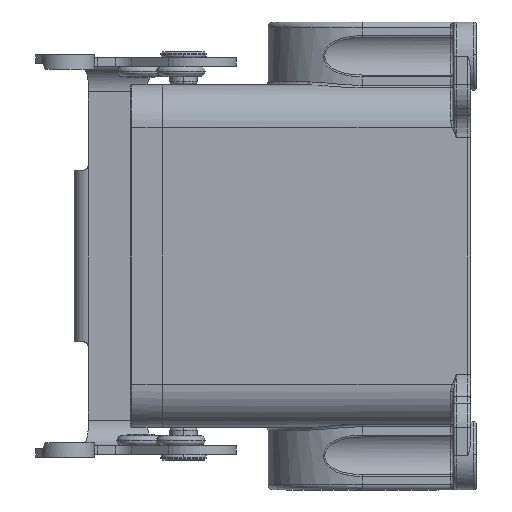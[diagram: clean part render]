
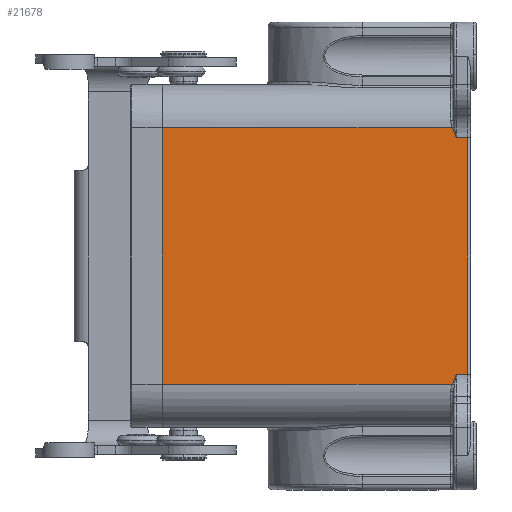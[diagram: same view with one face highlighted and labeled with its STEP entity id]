
A CAD part, left-side view. The second image highlights one B-rep face of the part: STEP entity #21678.
In plain terms, the highlighted planar face has unit normal (-1, 0, 0).
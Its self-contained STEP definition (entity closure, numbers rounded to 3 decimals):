
#515 = LINE ( 'NONE', #21799, #4257 ) ;
#530 = AXIS2_PLACEMENT_3D ( 'NONE', #25722, #27892, #16621 ) ;
#786 = CARTESIAN_POINT ( 'NONE',  ( -21.5, 54., 22.5 ) ) ;
#1586 = B_SPLINE_CURVE_WITH_KNOTS ( 'NONE', 3,
 ( #28176, #2062, #12813, #17362, #28078, #15172 ),
 .UNSPECIFIED., .F., .F.,
 ( 4, 2, 4 ),
 ( 0., 0.5, 1. ),
 .UNSPECIFIED. ) ;
#2062 = CARTESIAN_POINT ( 'NONE',  ( -21.5, 2.63, 21.021 ) ) ;
#3072 = CARTESIAN_POINT ( 'NONE',  ( -21.5, 54., -22.5 ) ) ;
#3293 = VERTEX_POINT ( 'NONE', #8698 ) ;
#3520 = CARTESIAN_POINT ( 'NONE',  ( -21.5, 0., 20.737 ) ) ;
#3769 = B_SPLINE_CURVE_WITH_KNOTS ( 'NONE', 3,
 ( #8391, #17144, #6292, #17059, #27574, #21417 ),
 .UNSPECIFIED., .F., .F.,
 ( 4, 2, 4 ),
 ( 0., 0.5, 1. ),
 .UNSPECIFIED. ) ;
#4257 = VECTOR ( 'NONE', #21989, 1000. ) ;
#5197 = LINE ( 'NONE', #6469, #13700 ) ;
#5691 = ORIENTED_EDGE ( 'NONE', *, *, #24210, .T. ) ;
#6109 = EDGE_CURVE ( 'NONE', #15528, #7904, #515, .T. ) ;
#6292 = CARTESIAN_POINT ( 'NONE',  ( -21.5, 3.005, -21.905 ) ) ;
#6469 = CARTESIAN_POINT ( 'NONE',  ( -21.5, 0., 22.5 ) ) ;
#7904 = VERTEX_POINT ( 'NONE', #8594 ) ;
#8391 = CARTESIAN_POINT ( 'NONE',  ( -21.5, 3.216, -22.5 ) ) ;
#8594 = CARTESIAN_POINT ( 'NONE',  ( -21.5, 3.216, -22.5 ) ) ;
#8698 = CARTESIAN_POINT ( 'NONE',  ( -21.5, 2.5, 20.737 ) ) ;
#9357 = DIRECTION ( 'NONE',  ( 0., 0., -1. ) ) ;
#9407 = EDGE_CURVE ( 'NONE', #19876, #24605, #5197, .T. ) ;
#9448 = CARTESIAN_POINT ( 'NONE',  ( -21.5, 54., -30. ) ) ;
#9650 = VERTEX_POINT ( 'NONE', #21259 ) ;
#9962 = DIRECTION ( 'NONE',  ( 0., 1., 0. ) ) ;
#10289 = VECTOR ( 'NONE', #26973, 1000. ) ;
#10419 = VERTEX_POINT ( 'NONE', #19916 ) ;
#10743 = ORIENTED_EDGE ( 'NONE', *, *, #18186, .T. ) ;
#10811 = ORIENTED_EDGE ( 'NONE', *, *, #22576, .T. ) ;
#10838 = EDGE_LOOP ( 'NONE', ( #12466, #5691, #23498, #16458, #10811, #23782, #13946, #10743 ) ) ;
#10961 = LINE ( 'NONE', #14343, #10289 ) ;
#11559 = LINE ( 'NONE', #9448, #13292 ) ;
#12466 = ORIENTED_EDGE ( 'NONE', *, *, #6109, .T. ) ;
#12813 = CARTESIAN_POINT ( 'NONE',  ( -21.5, 2.757, 21.313 ) ) ;
#13292 = VECTOR ( 'NONE', #9357, 1000. ) ;
#13700 = VECTOR ( 'NONE', #26042, 1000. ) ;
#13946 = ORIENTED_EDGE ( 'NONE', *, *, #9407, .T. ) ;
#14343 = CARTESIAN_POINT ( 'NONE',  ( -21.5, 0., -20.737 ) ) ;
#15172 = CARTESIAN_POINT ( 'NONE',  ( -21.5, 3.216, 22.5 ) ) ;
#15444 = CARTESIAN_POINT ( 'NONE',  ( -21.5, 0.5, -20.737 ) ) ;
#15528 = VERTEX_POINT ( 'NONE', #3072 ) ;
#16026 = CARTESIAN_POINT ( 'NONE',  ( -21.5, 0.5, 22.746 ) ) ;
#16040 = LINE ( 'NONE', #16026, #23170 ) ;
#16458 = ORIENTED_EDGE ( 'NONE', *, *, #16720, .F. ) ;
#16621 = DIRECTION ( 'NONE',  ( 0., 0., 1. ) ) ;
#16720 = EDGE_CURVE ( 'NONE', #10419, #24108, #16040, .T. ) ;
#17059 = CARTESIAN_POINT ( 'NONE',  ( -21.5, 2.757, -21.313 ) ) ;
#17144 = CARTESIAN_POINT ( 'NONE',  ( -21.5, 3.117, -22.202 ) ) ;
#17362 = CARTESIAN_POINT ( 'NONE',  ( -21.5, 3.005, 21.905 ) ) ;
#18186 = EDGE_CURVE ( 'NONE', #24605, #15528, #11559, .T. ) ;
#18487 = DIRECTION ( 'NONE',  ( 0., 0., -1. ) ) ;
#19876 = VERTEX_POINT ( 'NONE', #28085 ) ;
#19916 = CARTESIAN_POINT ( 'NONE',  ( -21.5, 0.5, 20.737 ) ) ;
#21259 = CARTESIAN_POINT ( 'NONE',  ( -21.5, 2.5, -20.737 ) ) ;
#21345 = VECTOR ( 'NONE', #9962, 1000. ) ;
#21417 = CARTESIAN_POINT ( 'NONE',  ( -21.5, 2.5, -20.737 ) ) ;
#21678 = ADVANCED_FACE ( 'NONE', ( #28084 ), #23724, .T. ) ;
#21799 = CARTESIAN_POINT ( 'NONE',  ( -21.5, 0., -22.5 ) ) ;
#21989 = DIRECTION ( 'NONE',  ( 0., -1., 0. ) ) ;
#22576 = EDGE_CURVE ( 'NONE', #10419, #3293, #26417, .T. ) ;
#23170 = VECTOR ( 'NONE', #18487, 1000. ) ;
#23498 = ORIENTED_EDGE ( 'NONE', *, *, #26520, .T. ) ;
#23724 = PLANE ( 'NONE',  #530 ) ;
#23782 = ORIENTED_EDGE ( 'NONE', *, *, #23986, .T. ) ;
#23986 = EDGE_CURVE ( 'NONE', #3293, #19876, #1586, .T. ) ;
#24108 = VERTEX_POINT ( 'NONE', #15444 ) ;
#24210 = EDGE_CURVE ( 'NONE', #7904, #9650, #3769, .T. ) ;
#24605 = VERTEX_POINT ( 'NONE', #786 ) ;
#25722 = CARTESIAN_POINT ( 'NONE',  ( -21.5, 0., -30. ) ) ;
#26042 = DIRECTION ( 'NONE',  ( 0., 1., 0. ) ) ;
#26417 = LINE ( 'NONE', #3520, #21345 ) ;
#26520 = EDGE_CURVE ( 'NONE', #9650, #24108, #10961, .T. ) ;
#26973 = DIRECTION ( 'NONE',  ( 0., -1., 0. ) ) ;
#27574 = CARTESIAN_POINT ( 'NONE',  ( -21.5, 2.63, -21.022 ) ) ;
#27892 = DIRECTION ( 'NONE',  ( -1., 0., 0. ) ) ;
#28078 = CARTESIAN_POINT ( 'NONE',  ( -21.5, 3.117, 22.202 ) ) ;
#28084 = FACE_OUTER_BOUND ( 'NONE', #10838, .T. ) ;
#28085 = CARTESIAN_POINT ( 'NONE',  ( -21.5, 3.216, 22.5 ) ) ;
#28176 = CARTESIAN_POINT ( 'NONE',  ( -21.5, 2.5, 20.737 ) ) ;
